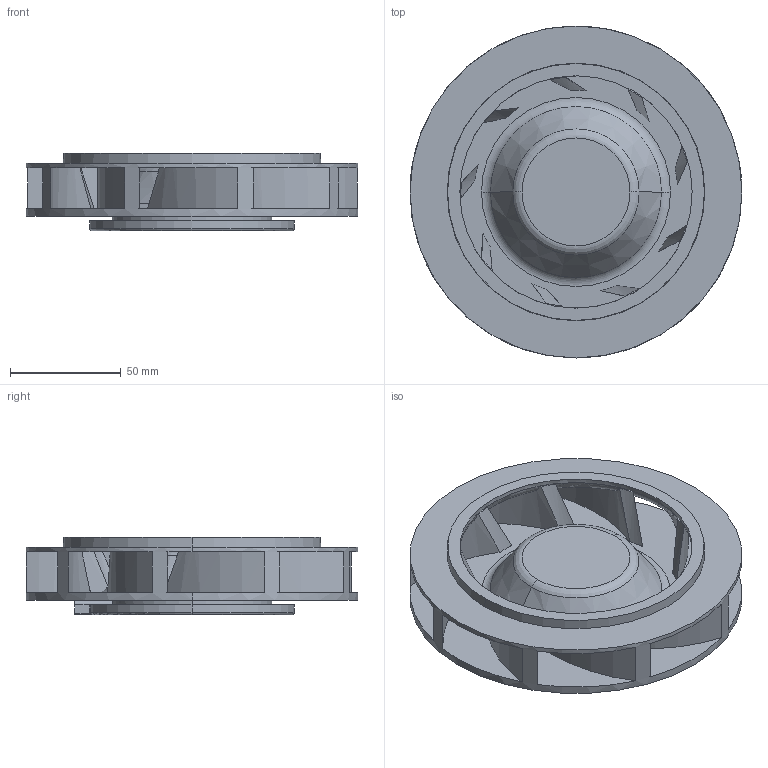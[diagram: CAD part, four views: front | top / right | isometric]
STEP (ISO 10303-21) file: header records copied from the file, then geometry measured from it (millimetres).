
FILE_DESCRIPTION (( 'STEP AP203' ), '1' );
FILE_NAME ('SanAce_9W2TN_150x35_CTF.STEP', '2019-11-01T01:07:00', ( '' ), ( '' ), 'SwSTEP 2.0', 'SolidWorks 2017', '' );
FILE_SCHEMA (( 'CONFIG_CONTROL_DESIGN' ));
Length unit declared in the file: millimetre
Products named in the file (1): SanAce_9W2TN_150x35_CTF
Bounding box: 150 x 150 x 35 mm (x, y, z)
Volume: 206964 mm3; surface area: 84490.3 mm2
Topology: 1 solids, 1 shells, 113 faces, 308 edges, 193 vertices
Faces by surface type: cylinder 45, plane 34, torus 17, cone 13, bspline 4
Entity records: 4227 total; most frequent: CARTESIAN_POINT 1207, DIRECTION 674, ORIENTED_EDGE 612, AXIS2_PLACEMENT_3D 306, EDGE_CURVE 306, CIRCLE 196, VERTEX_POINT 193, EDGE_LOOP 129
